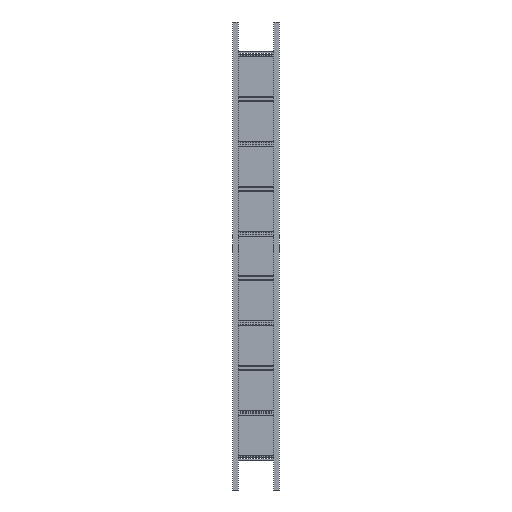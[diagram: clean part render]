
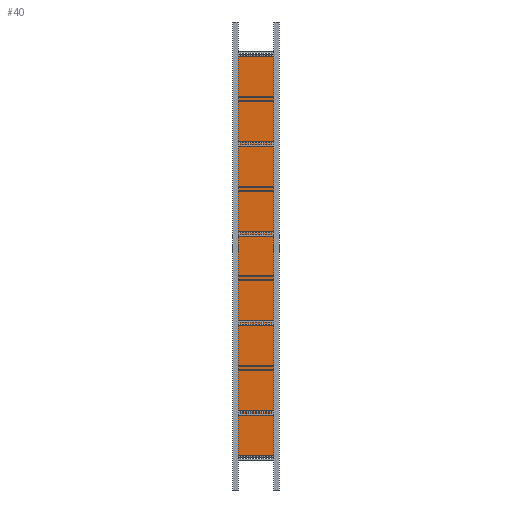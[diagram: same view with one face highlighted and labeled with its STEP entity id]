
A CAD part, front view. The second image highlights one B-rep face of the part: STEP entity #40.
In plain terms, the highlighted planar face has unit normal (0, 1, 0).
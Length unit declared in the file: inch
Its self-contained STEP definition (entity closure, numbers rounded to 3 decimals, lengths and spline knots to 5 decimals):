
#1=DIRECTION('',(0.,0.,-1.));
#2=VECTOR('',#1,124.2);
#3=CARTESIAN_POINT('',(-6.,-1.,-9.9));
#4=LINE('',#3,#2);
#5=DIRECTION('',(1.,0.,0.));
#6=VECTOR('',#5,12.);
#7=CARTESIAN_POINT('',(-6.,-1.,-134.1));
#8=LINE('',#7,#6);
#9=DIRECTION('',(0.,0.,1.));
#10=VECTOR('',#9,124.2);
#11=CARTESIAN_POINT('',(6.,-1.,-134.1));
#12=LINE('',#11,#10);
#13=DIRECTION('',(-1.,0.,0.));
#14=VECTOR('',#13,12.);
#15=CARTESIAN_POINT('',(6.,-1.,-9.9));
#16=LINE('',#15,#14);
#17=CARTESIAN_POINT('',(-6.,-1.,-134.1));
#18=CARTESIAN_POINT('',(-6.,-1.,-9.9));
#19=VERTEX_POINT('',#17);
#20=VERTEX_POINT('',#18);
#21=CARTESIAN_POINT('',(6.,-1.,-9.9));
#22=VERTEX_POINT('',#21);
#23=CARTESIAN_POINT('',(6.,-1.,-134.1));
#24=VERTEX_POINT('',#23);
#25=CARTESIAN_POINT('',(0.,-1.,0.));
#26=DIRECTION('',(0.,1.,0.));
#27=DIRECTION('',(1.,0.,0.));
#28=AXIS2_PLACEMENT_3D('',#25,#26,#27);
#29=PLANE('',#28);
#31=ORIENTED_EDGE('',*,*,#30,.T.);
#33=ORIENTED_EDGE('',*,*,#32,.T.);
#35=ORIENTED_EDGE('',*,*,#34,.T.);
#37=ORIENTED_EDGE('',*,*,#36,.T.);
#38=EDGE_LOOP('',(#31,#33,#35,#37));
#39=FACE_OUTER_BOUND('',#38,.F.);
#40=ADVANCED_FACE('',(#39),#29,.T.);
#30=EDGE_CURVE('',#20,#19,#4,.T.);
#32=EDGE_CURVE('',#19,#24,#8,.T.);
#34=EDGE_CURVE('',#24,#22,#12,.T.);
#36=EDGE_CURVE('',#22,#20,#16,.T.);
